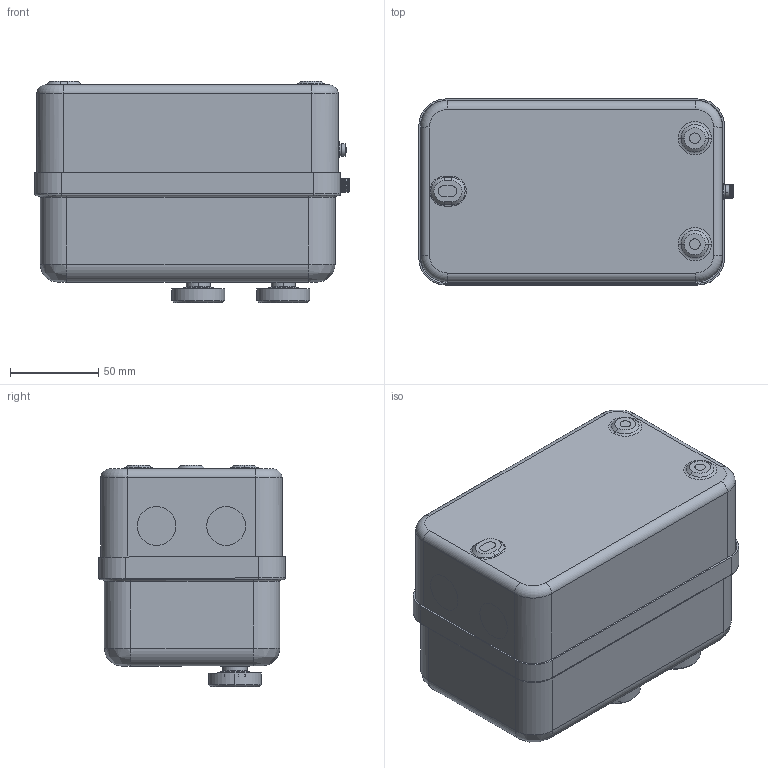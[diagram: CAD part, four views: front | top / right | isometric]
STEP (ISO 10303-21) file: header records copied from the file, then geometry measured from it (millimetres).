
FILE_DESCRIPTION((''),'2;1');
FILE_NAME('CDS2S-13B_SW0001','2025-10-14T',('qiang01.yu'),(''),'PRO/ENGINEER BY PARAMETRIC TECHNOLOGY CORPORATION, 2015440','PRO/ENGINEER BY PARAMETRIC TECHNOLOGY CORPORATION, 2015440','');
FILE_SCHEMA(('CONFIG_CONTROL_DESIGN'));
Length unit declared in the file: millimetre
Products named in the file (1): CDS2S-13B_SW0001
Bounding box: 178.2 x 105.52 x 125.41 mm (x, y, z)
Volume: 1294690.2 mm3; surface area: 220482.8 mm2
Topology: 3 solids, 3 shells, 705 faces, 1943 edges, 1276 vertices
Faces by surface type: plane 366, cylinder 221, cone 57, torus 49, bspline 8, sphere 4
Entity records: 23517 total; most frequent: CARTESIAN_POINT 4951, DIRECTION 4031, ORIENTED_EDGE 3880, EDGE_CURVE 1940, AXIS2_PLACEMENT_3D 1496, VERTEX_POINT 1276, VECTOR 1039, LINE 1039
